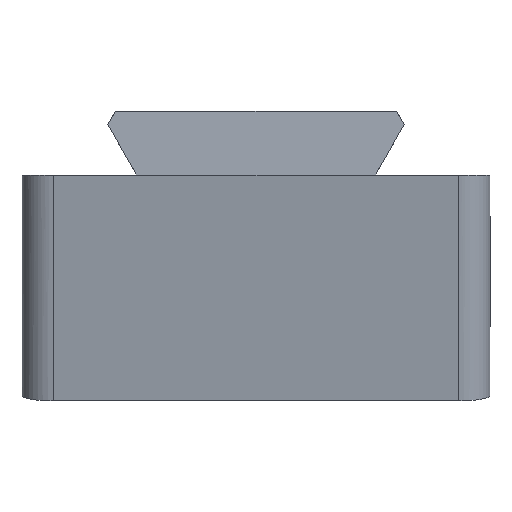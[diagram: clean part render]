
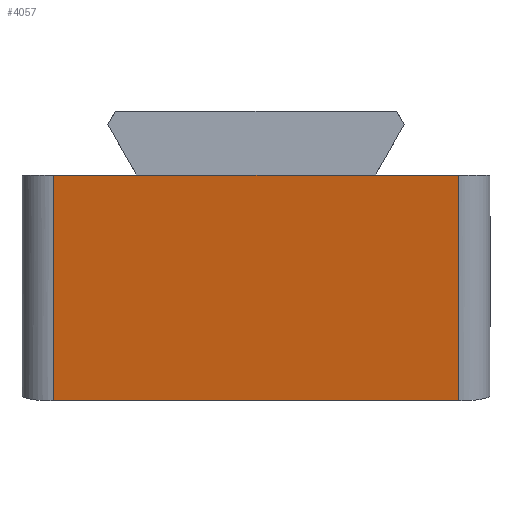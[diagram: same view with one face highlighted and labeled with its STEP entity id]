
A CAD part, left-side view. The second image highlights one B-rep face of the part: STEP entity #4057.
In plain terms, the highlighted planar face has unit normal (-0.985, 0, -0.174).
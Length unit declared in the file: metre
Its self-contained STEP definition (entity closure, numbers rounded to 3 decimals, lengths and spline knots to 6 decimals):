
#584=ORIENTED_EDGE('',*,*,#1620,.T.);
#585=ORIENTED_EDGE('',*,*,#1769,.T.);
#586=ORIENTED_EDGE('',*,*,#1550,.F.);
#587=ORIENTED_EDGE('',*,*,#1770,.T.);
#588=ORIENTED_EDGE('',*,*,#1632,.T.);
#589=ORIENTED_EDGE('',*,*,#1764,.T.);
#1550=EDGE_CURVE('',#2161,#2162,#2568,.T.);
#1620=EDGE_CURVE('',#2222,#2229,#2613,.T.);
#1632=EDGE_CURVE('',#2238,#2214,#2619,.T.);
#1764=EDGE_CURVE('',#2214,#2222,#2693,.T.);
#1769=EDGE_CURVE('',#2229,#2162,#2694,.T.);
#1770=EDGE_CURVE('',#2161,#2238,#2695,.F.);
#2161=VERTEX_POINT('',#5456);
#2162=VERTEX_POINT('',#5458);
#2214=VERTEX_POINT('',#5569);
#2222=VERTEX_POINT('',#5587);
#2229=VERTEX_POINT('',#5604);
#2238=VERTEX_POINT('',#5626);
#2568=LINE('',#5457,#2971);
#2613=LINE('',#5605,#3016);
#2619=LINE('',#5625,#3022);
#2693=LINE('',#5968,#3096);
#2694=LINE('',#5980,#3097);
#2695=LINE('',#5981,#3098);
#2971=VECTOR('',#4546,1.);
#3016=VECTOR('',#4661,1.);
#3022=VECTOR('',#4679,1.);
#3096=VECTOR('',#4801,1.);
#3097=VECTOR('',#4820,1.);
#3098=VECTOR('',#4821,1.);
#3415=EDGE_LOOP('',(#584,#585,#586,#587,#588,#589));
#3682=FACE_BOUND('',#3415,.T.);
#3922=PLANE('',#4355);
#4057=ADVANCED_FACE('',(#3682),#3922,.F.);
#4355=AXIS2_PLACEMENT_3D('',#5979,#4818,#4819);
#4546=DIRECTION('',(0.,1.,0.));
#4661=DIRECTION('',(0.,1.,0.));
#4679=DIRECTION('',(0.,1.,0.));
#4801=DIRECTION('',(0.,1.,0.));
#4818=DIRECTION('',(0.985,0.,0.174));
#4819=DIRECTION('',(0.174,0.,-0.985));
#4820=DIRECTION('',(0.174,0.,-0.985));
#4821=DIRECTION('',(0.174,0.,-0.985));
#5456=CARTESIAN_POINT('',(0.002552,-0.013,-0.014475));
#5457=CARTESIAN_POINT('',(0.002552,-0.015,-0.014475));
#5458=CARTESIAN_POINT('',(0.002552,0.013,-0.014475));
#5569=CARTESIAN_POINT('',(0.,-0.007695,0.));
#5587=CARTESIAN_POINT('',(0.,0.007695,0.));
#5604=CARTESIAN_POINT('',(0.,0.013,0.));
#5605=CARTESIAN_POINT('',(0.,-0.015,0.));
#5625=CARTESIAN_POINT('',(0.,-0.015,0.));
#5626=CARTESIAN_POINT('',(0.,-0.013,0.));
#5968=CARTESIAN_POINT('',(0.,0.,0.));
#5979=CARTESIAN_POINT('',(0.001276,-0.015,-0.007237));
#5980=CARTESIAN_POINT('',(0.001276,0.013,-0.007237));
#5981=CARTESIAN_POINT('',(0.,-0.013,0.));
